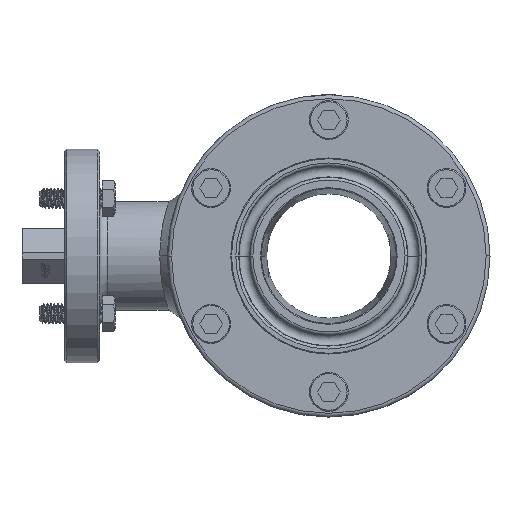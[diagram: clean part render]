
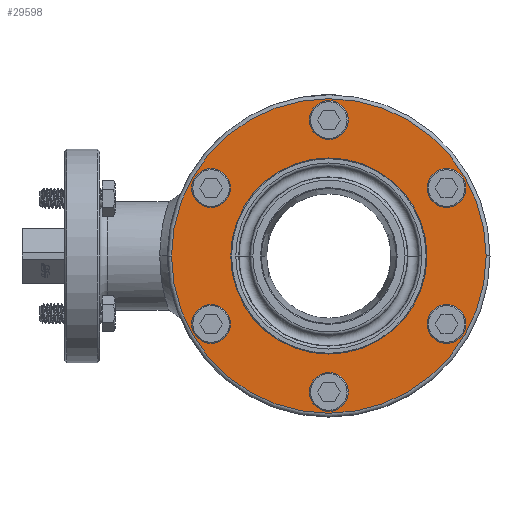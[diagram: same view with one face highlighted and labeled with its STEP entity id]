
A CAD part, left-side view. The second image highlights one B-rep face of the part: STEP entity #29598.
In plain terms, the highlighted planar face has unit normal (-1, 0, 0).
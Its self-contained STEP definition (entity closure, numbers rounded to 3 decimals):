
#1732=CARTESIAN_POINT('',(-32.,0.,0.));
#1733=DIRECTION('',(1.,0.,0.));
#1734=DIRECTION('',(0.,-1.,0.));
#1735=AXIS2_PLACEMENT_3D('',#1732,#1733,#1734);
#1740=CARTESIAN_POINT('',(-32.,0.,0.));
#1741=DIRECTION('',(1.,0.,0.));
#1742=DIRECTION('',(0.,1.,0.));
#1743=AXIS2_PLACEMENT_3D('',#1740,#1741,#1742);
#1748=CARTESIAN_POINT('',(-32.,0.,0.));
#1749=DIRECTION('',(-1.,0.,0.));
#1750=DIRECTION('',(0.,1.,0.));
#1751=AXIS2_PLACEMENT_3D('',#1748,#1749,#1750);
#1756=CARTESIAN_POINT('',(-32.,0.,0.));
#1757=DIRECTION('',(-1.,0.,0.));
#1758=DIRECTION('',(0.,-1.,0.));
#1759=AXIS2_PLACEMENT_3D('',#1756,#1757,#1758);
#1764=CARTESIAN_POINT('',(-32.,30.311,-17.5));
#1765=DIRECTION('',(-1.,0.,0.));
#1766=DIRECTION('',(0.,-1.,0.));
#1767=AXIS2_PLACEMENT_3D('',#1764,#1765,#1766);
#1772=CARTESIAN_POINT('',(-32.,30.311,-17.5));
#1773=DIRECTION('',(-1.,0.,0.));
#1774=DIRECTION('',(0.,1.,0.));
#1775=AXIS2_PLACEMENT_3D('',#1772,#1773,#1774);
#1780=CARTESIAN_POINT('',(-32.,30.311,17.5));
#1781=DIRECTION('',(-1.,0.,0.));
#1782=DIRECTION('',(0.,-1.,0.));
#1783=AXIS2_PLACEMENT_3D('',#1780,#1781,#1782);
#1788=CARTESIAN_POINT('',(-32.,30.311,17.5));
#1789=DIRECTION('',(-1.,0.,0.));
#1790=DIRECTION('',(0.,1.,0.));
#1791=AXIS2_PLACEMENT_3D('',#1788,#1789,#1790);
#1796=CARTESIAN_POINT('',(-32.,0.,35.));
#1797=DIRECTION('',(-1.,0.,0.));
#1798=DIRECTION('',(0.,-1.,0.));
#1799=AXIS2_PLACEMENT_3D('',#1796,#1797,#1798);
#1804=CARTESIAN_POINT('',(-32.,0.,35.));
#1805=DIRECTION('',(-1.,0.,0.));
#1806=DIRECTION('',(0.,1.,0.));
#1807=AXIS2_PLACEMENT_3D('',#1804,#1805,#1806);
#1812=CARTESIAN_POINT('',(-32.,-30.311,17.5));
#1813=DIRECTION('',(-1.,0.,0.));
#1814=DIRECTION('',(0.,-1.,0.));
#1815=AXIS2_PLACEMENT_3D('',#1812,#1813,#1814);
#1820=CARTESIAN_POINT('',(-32.,-30.311,17.5));
#1821=DIRECTION('',(-1.,0.,0.));
#1822=DIRECTION('',(0.,1.,0.));
#1823=AXIS2_PLACEMENT_3D('',#1820,#1821,#1822);
#1828=CARTESIAN_POINT('',(-32.,-30.311,-17.5));
#1829=DIRECTION('',(-1.,0.,0.));
#1830=DIRECTION('',(0.,-1.,0.));
#1831=AXIS2_PLACEMENT_3D('',#1828,#1829,#1830);
#1836=CARTESIAN_POINT('',(-32.,-30.311,-17.5));
#1837=DIRECTION('',(-1.,0.,0.));
#1838=DIRECTION('',(0.,1.,0.));
#1839=AXIS2_PLACEMENT_3D('',#1836,#1837,#1838);
#1844=CARTESIAN_POINT('',(-32.,0.,-35.));
#1845=DIRECTION('',(-1.,0.,0.));
#1846=DIRECTION('',(0.,-1.,0.));
#1847=AXIS2_PLACEMENT_3D('',#1844,#1845,#1846);
#1852=CARTESIAN_POINT('',(-32.,0.,-35.));
#1853=DIRECTION('',(-1.,0.,0.));
#1854=DIRECTION('',(0.,1.,0.));
#1855=AXIS2_PLACEMENT_3D('',#1852,#1853,#1854);
#28161=CARTESIAN_POINT('',(-32.,-40.5,0.));
#28162=CARTESIAN_POINT('',(-32.,40.5,0.));
#28163=VERTEX_POINT('',#28161);
#28164=VERTEX_POINT('',#28162);
#28169=CARTESIAN_POINT('',(-32.,24.,0.));
#28170=CARTESIAN_POINT('',(-32.,-24.,0.));
#28171=VERTEX_POINT('',#28169);
#28172=VERTEX_POINT('',#28170);
#28405=CARTESIAN_POINT('',(-32.,25.311,-17.5));
#28406=CARTESIAN_POINT('',(-32.,35.311,-17.5));
#28407=VERTEX_POINT('',#28405);
#28408=VERTEX_POINT('',#28406);
#28453=CARTESIAN_POINT('',(-32.,25.311,17.5));
#28454=CARTESIAN_POINT('',(-32.,35.311,17.5));
#28455=VERTEX_POINT('',#28453);
#28456=VERTEX_POINT('',#28454);
#28501=CARTESIAN_POINT('',(-32.,-5.,35.));
#28502=CARTESIAN_POINT('',(-32.,5.,35.));
#28503=VERTEX_POINT('',#28501);
#28504=VERTEX_POINT('',#28502);
#28549=CARTESIAN_POINT('',(-32.,-35.311,17.5));
#28550=CARTESIAN_POINT('',(-32.,-25.311,17.5));
#28551=VERTEX_POINT('',#28549);
#28552=VERTEX_POINT('',#28550);
#28597=CARTESIAN_POINT('',(-32.,-35.311,-17.5));
#28598=CARTESIAN_POINT('',(-32.,-25.311,-17.5));
#28599=VERTEX_POINT('',#28597);
#28600=VERTEX_POINT('',#28598);
#28645=CARTESIAN_POINT('',(-32.,-5.,-35.));
#28646=CARTESIAN_POINT('',(-32.,5.,-35.));
#28647=VERTEX_POINT('',#28645);
#28648=VERTEX_POINT('',#28646);
#29547=CARTESIAN_POINT('',(-32.,0.,0.));
#29548=DIRECTION('',(-1.,0.,0.));
#29549=DIRECTION('',(0.,-1.,0.));
#29550=AXIS2_PLACEMENT_3D('',#29547,#29548,#29549);
#29551=PLANE('',#29550);
#29552=ORIENTED_EDGE('',*,*,#29515,.T.);
#29553=ORIENTED_EDGE('',*,*,#29493,.T.);
#29554=EDGE_LOOP('',(#29552,#29553));
#29555=FACE_OUTER_BOUND('',#29554,.F.);
#29557=ORIENTED_EDGE('',*,*,#29556,.T.);
#29559=ORIENTED_EDGE('',*,*,#29558,.T.);
#29560=EDGE_LOOP('',(#29557,#29559));
#29561=FACE_BOUND('',#29560,.F.);
#29563=ORIENTED_EDGE('',*,*,#29562,.T.);
#29565=ORIENTED_EDGE('',*,*,#29564,.T.);
#29566=EDGE_LOOP('',(#29563,#29565));
#29567=FACE_BOUND('',#29566,.F.);
#29569=ORIENTED_EDGE('',*,*,#29568,.T.);
#29571=ORIENTED_EDGE('',*,*,#29570,.T.);
#29572=EDGE_LOOP('',(#29569,#29571));
#29573=FACE_BOUND('',#29572,.F.);
#29575=ORIENTED_EDGE('',*,*,#29574,.T.);
#29577=ORIENTED_EDGE('',*,*,#29576,.T.);
#29578=EDGE_LOOP('',(#29575,#29577));
#29579=FACE_BOUND('',#29578,.F.);
#29581=ORIENTED_EDGE('',*,*,#29580,.T.);
#29583=ORIENTED_EDGE('',*,*,#29582,.T.);
#29584=EDGE_LOOP('',(#29581,#29583));
#29585=FACE_BOUND('',#29584,.F.);
#29587=ORIENTED_EDGE('',*,*,#29586,.T.);
#29589=ORIENTED_EDGE('',*,*,#29588,.T.);
#29590=EDGE_LOOP('',(#29587,#29589));
#29591=FACE_BOUND('',#29590,.F.);
#29593=ORIENTED_EDGE('',*,*,#29592,.T.);
#29595=ORIENTED_EDGE('',*,*,#29594,.T.);
#29596=EDGE_LOOP('',(#29593,#29595));
#29597=FACE_BOUND('',#29596,.F.);
#29598=ADVANCED_FACE('',(#29555,#29561,#29567,#29573,#29579,#29585,#29591,
#29597),#29551,.T.);
#1736=CIRCLE('',#1735,40.5);
#1744=CIRCLE('',#1743,40.5);
#1752=CIRCLE('',#1751,24.);
#1760=CIRCLE('',#1759,24.);
#1768=CIRCLE('',#1767,5.);
#1776=CIRCLE('',#1775,5.);
#1784=CIRCLE('',#1783,5.);
#1792=CIRCLE('',#1791,5.);
#1800=CIRCLE('',#1799,5.);
#1808=CIRCLE('',#1807,5.);
#1816=CIRCLE('',#1815,5.);
#1824=CIRCLE('',#1823,5.);
#1832=CIRCLE('',#1831,5.);
#1840=CIRCLE('',#1839,5.);
#1848=CIRCLE('',#1847,5.);
#1856=CIRCLE('',#1855,5.);
#29493=EDGE_CURVE('',#28164,#28163,#1744,.T.);
#29515=EDGE_CURVE('',#28163,#28164,#1736,.T.);
#29556=EDGE_CURVE('',#28171,#28172,#1752,.T.);
#29558=EDGE_CURVE('',#28172,#28171,#1760,.T.);
#29562=EDGE_CURVE('',#28407,#28408,#1768,.T.);
#29564=EDGE_CURVE('',#28408,#28407,#1776,.T.);
#29568=EDGE_CURVE('',#28455,#28456,#1784,.T.);
#29570=EDGE_CURVE('',#28456,#28455,#1792,.T.);
#29574=EDGE_CURVE('',#28503,#28504,#1800,.T.);
#29576=EDGE_CURVE('',#28504,#28503,#1808,.T.);
#29580=EDGE_CURVE('',#28551,#28552,#1816,.T.);
#29582=EDGE_CURVE('',#28552,#28551,#1824,.T.);
#29586=EDGE_CURVE('',#28599,#28600,#1832,.T.);
#29588=EDGE_CURVE('',#28600,#28599,#1840,.T.);
#29592=EDGE_CURVE('',#28647,#28648,#1848,.T.);
#29594=EDGE_CURVE('',#28648,#28647,#1856,.T.);
